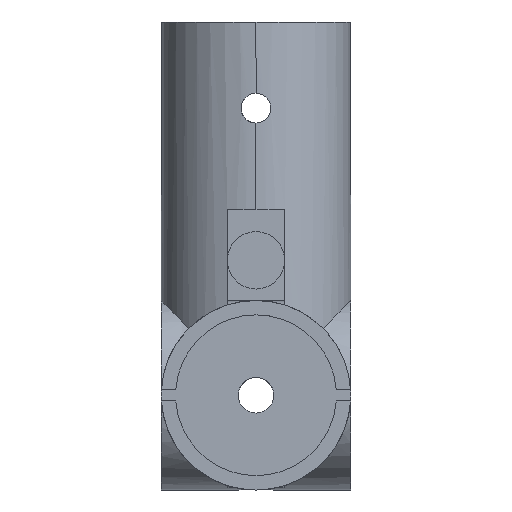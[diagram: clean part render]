
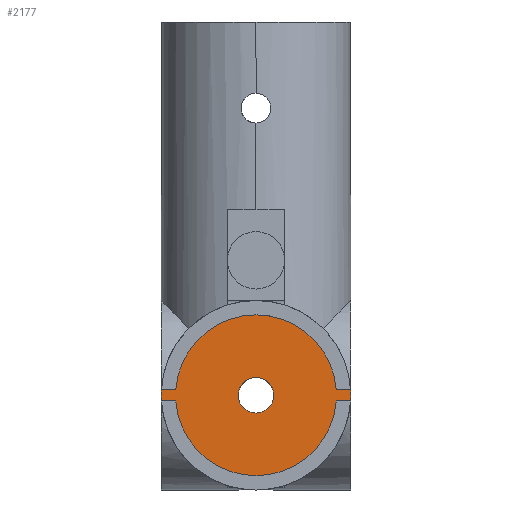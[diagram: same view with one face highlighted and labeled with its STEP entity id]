
A CAD part, left-side view. The second image highlights one B-rep face of the part: STEP entity #2177.
In plain terms, the highlighted planar face has unit normal (-1, 0, 0).
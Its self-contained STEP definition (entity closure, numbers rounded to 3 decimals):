
#31 = LINE ( 'NONE', #4981, #72 ) ;
#41 = VERTEX_POINT ( 'NONE', #2404 ) ;
#72 = VECTOR ( 'NONE', #1301, 1000. ) ;
#121 = CARTESIAN_POINT ( 'NONE',  ( -35., 0., 0. ) ) ;
#172 = EDGE_CURVE ( 'NONE', #2025, #3212, #1952, .T. ) ;
#316 = EDGE_LOOP ( 'NONE', ( #1748, #3968 ) ) ;
#358 = CARTESIAN_POINT ( 'NONE',  ( -35., 13.964, -1. ) ) ;
#424 = ORIENTED_EDGE ( 'NONE', *, *, #3072, .T. ) ;
#427 = DIRECTION ( 'NONE',  ( 0., 0., -1. ) ) ;
#445 = DIRECTION ( 'NONE',  ( 0., 1., 0. ) ) ;
#452 = ORIENTED_EDGE ( 'NONE', *, *, #2437, .T. ) ;
#470 = ORIENTED_EDGE ( 'NONE', *, *, #1853, .T. ) ;
#497 = CARTESIAN_POINT ( 'NONE',  ( -35., -16.5, 1. ) ) ;
#524 = CARTESIAN_POINT ( 'NONE',  ( -35., 0., 14. ) ) ;
#715 = VERTEX_POINT ( 'NONE', #2069 ) ;
#827 = VERTEX_POINT ( 'NONE', #1645 ) ;
#832 = CARTESIAN_POINT ( 'NONE',  ( -35., 0., 0. ) ) ;
#839 = AXIS2_PLACEMENT_3D ( 'NONE', #2021, #1647, #2891 ) ;
#880 = DIRECTION ( 'NONE',  ( -1., 0., 0. ) ) ;
#988 = CARTESIAN_POINT ( 'NONE',  ( -35., -16.5, -1. ) ) ;
#1299 = EDGE_CURVE ( 'NONE', #715, #2874, #5301, .T. ) ;
#1301 = DIRECTION ( 'NONE',  ( 0., 1., 0. ) ) ;
#1402 = EDGE_CURVE ( 'NONE', #2918, #2633, #4430, .T. ) ;
#1465 = CARTESIAN_POINT ( 'NONE',  ( -35., -13.964, -1. ) ) ;
#1531 = VECTOR ( 'NONE', #445, 1000. ) ;
#1635 = PLANE ( 'NONE',  #3150 ) ;
#1639 = CARTESIAN_POINT ( 'NONE',  ( -35., -16.47, -1. ) ) ;
#1645 = CARTESIAN_POINT ( 'NONE',  ( -35., 13.964, 1. ) ) ;
#1647 = DIRECTION ( 'NONE',  ( -1., 0., 0. ) ) ;
#1711 = FACE_BOUND ( 'NONE', #316, .T. ) ;
#1735 = DIRECTION ( 'NONE',  ( -1., 0., 0. ) ) ;
#1744 = CARTESIAN_POINT ( 'NONE',  ( -35., 0., -3.1 ) ) ;
#1748 = ORIENTED_EDGE ( 'NONE', *, *, #1402, .F. ) ;
#1816 = ORIENTED_EDGE ( 'NONE', *, *, #172, .T. ) ;
#1853 = EDGE_CURVE ( 'NONE', #2552, #715, #31, .T. ) ;
#1855 = AXIS2_PLACEMENT_3D ( 'NONE', #2588, #4220, #3869 ) ;
#1895 = ORIENTED_EDGE ( 'NONE', *, *, #3186, .F. ) ;
#1952 = CIRCLE ( 'NONE', #839, 14. ) ;
#2021 = CARTESIAN_POINT ( 'NONE',  ( -35., 0., 0. ) ) ;
#2025 = VERTEX_POINT ( 'NONE', #358 ) ;
#2027 = DIRECTION ( 'NONE',  ( -1., 0., 0. ) ) ;
#2035 = VECTOR ( 'NONE', #3772, 1000. ) ;
#2036 = DIRECTION ( 'NONE',  ( -1., 0., 0. ) ) ;
#2069 = CARTESIAN_POINT ( 'NONE',  ( -35., -13.964, 1. ) ) ;
#2076 = CIRCLE ( 'NONE', #3026, 3.1 ) ;
#2118 = CARTESIAN_POINT ( 'NONE',  ( -35., 0., 0. ) ) ;
#2177 = ADVANCED_FACE ( 'NONE', ( #1711, #4159 ), #1635, .T. ) ;
#2298 = AXIS2_PLACEMENT_3D ( 'NONE', #832, #2850, #4079 ) ;
#2329 = DIRECTION ( 'NONE',  ( 0., 0., 1. ) ) ;
#2355 = DIRECTION ( 'NONE',  ( -1., 0., 0. ) ) ;
#2404 = CARTESIAN_POINT ( 'NONE',  ( -35., 16.47, -1. ) ) ;
#2435 = ORIENTED_EDGE ( 'NONE', *, *, #4611, .T. ) ;
#2437 = EDGE_CURVE ( 'NONE', #2874, #827, #4722, .T. ) ;
#2539 = CARTESIAN_POINT ( 'NONE',  ( -35., 0., 3.1 ) ) ;
#2552 = VERTEX_POINT ( 'NONE', #4472 ) ;
#2588 = CARTESIAN_POINT ( 'NONE',  ( -35., 0., 0. ) ) ;
#2633 = VERTEX_POINT ( 'NONE', #2539 ) ;
#2700 = CARTESIAN_POINT ( 'NONE',  ( -35., 16.47, 1. ) ) ;
#2806 = VERTEX_POINT ( 'NONE', #1639 ) ;
#2850 = DIRECTION ( 'NONE',  ( -1., 0., 0. ) ) ;
#2874 = VERTEX_POINT ( 'NONE', #524 ) ;
#2891 = DIRECTION ( 'NONE',  ( 0., 0., 1. ) ) ;
#2918 = VERTEX_POINT ( 'NONE', #1744 ) ;
#2920 = CARTESIAN_POINT ( 'NONE',  ( -35., 0., 0. ) ) ;
#3026 = AXIS2_PLACEMENT_3D ( 'NONE', #3183, #2355, #2329 ) ;
#3056 = DIRECTION ( 'NONE',  ( 0., 0., -1. ) ) ;
#3072 = EDGE_CURVE ( 'NONE', #2806, #2552, #3245, .T. ) ;
#3150 = AXIS2_PLACEMENT_3D ( 'NONE', #2118, #2036, #3354 ) ;
#3158 = VECTOR ( 'NONE', #5013, 1000. ) ;
#3183 = CARTESIAN_POINT ( 'NONE',  ( -35., 0., 0. ) ) ;
#3186 = EDGE_CURVE ( 'NONE', #2806, #3212, #4669, .T. ) ;
#3212 = VERTEX_POINT ( 'NONE', #1465 ) ;
#3245 = CIRCLE ( 'NONE', #4185, 16.5 ) ;
#3262 = CARTESIAN_POINT ( 'NONE',  ( -35., -16.5, -1. ) ) ;
#3354 = DIRECTION ( 'NONE',  ( 0., 0., 1. ) ) ;
#3388 = EDGE_CURVE ( 'NONE', #2025, #41, #4088, .T. ) ;
#3589 = EDGE_CURVE ( 'NONE', #827, #3679, #3822, .T. ) ;
#3679 = VERTEX_POINT ( 'NONE', #2700 ) ;
#3747 = EDGE_CURVE ( 'NONE', #2633, #2918, #2076, .T. ) ;
#3768 = AXIS2_PLACEMENT_3D ( 'NONE', #4101, #2027, #4480 ) ;
#3772 = DIRECTION ( 'NONE',  ( 0., 1., 0. ) ) ;
#3822 = LINE ( 'NONE', #497, #3158 ) ;
#3869 = DIRECTION ( 'NONE',  ( 0., 0., 1. ) ) ;
#3968 = ORIENTED_EDGE ( 'NONE', *, *, #3747, .F. ) ;
#4079 = DIRECTION ( 'NONE',  ( 0., 0., 1. ) ) ;
#4085 = AXIS2_PLACEMENT_3D ( 'NONE', #121, #1735, #3056 ) ;
#4088 = LINE ( 'NONE', #3262, #1531 ) ;
#4101 = CARTESIAN_POINT ( 'NONE',  ( -35., 0., 0. ) ) ;
#4159 = FACE_OUTER_BOUND ( 'NONE', #4758, .T. ) ;
#4185 = AXIS2_PLACEMENT_3D ( 'NONE', #2920, #880, #427 ) ;
#4220 = DIRECTION ( 'NONE',  ( -1., 0., 0. ) ) ;
#4430 = CIRCLE ( 'NONE', #1855, 3.1 ) ;
#4472 = CARTESIAN_POINT ( 'NONE',  ( -35., -16.47, 1. ) ) ;
#4480 = DIRECTION ( 'NONE',  ( 0., 0., 1. ) ) ;
#4519 = CIRCLE ( 'NONE', #4085, 16.5 ) ;
#4585 = ORIENTED_EDGE ( 'NONE', *, *, #1299, .T. ) ;
#4611 = EDGE_CURVE ( 'NONE', #3679, #41, #4519, .T. ) ;
#4669 = LINE ( 'NONE', #988, #2035 ) ;
#4722 = CIRCLE ( 'NONE', #3768, 14. ) ;
#4758 = EDGE_LOOP ( 'NONE', ( #1816, #1895, #424, #470, #4585, #452, #5262, #2435, #5077 ) ) ;
#4981 = CARTESIAN_POINT ( 'NONE',  ( -35., -16.5, 1. ) ) ;
#5013 = DIRECTION ( 'NONE',  ( 0., 1., 0. ) ) ;
#5077 = ORIENTED_EDGE ( 'NONE', *, *, #3388, .F. ) ;
#5262 = ORIENTED_EDGE ( 'NONE', *, *, #3589, .T. ) ;
#5301 = CIRCLE ( 'NONE', #2298, 14. ) ;
